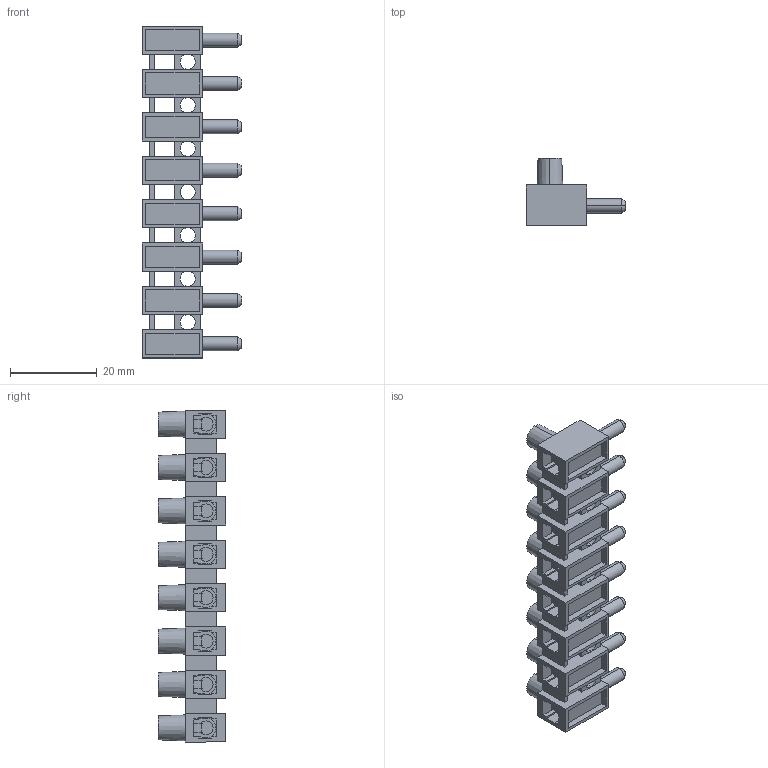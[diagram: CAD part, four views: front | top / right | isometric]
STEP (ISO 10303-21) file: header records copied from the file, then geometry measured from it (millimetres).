
FILE_DESCRIPTION (( 'STEP AP214' ), '1' );
FILE_NAME ('322-STFS-DS-08.STEP', '2008-04-15T01:49:44', ( ' ' ), ( '' ), 'SwSTEP 2.0', 'SolidWorks 2007', '' );
FILE_SCHEMA (( 'AUTOMOTIVE_DESIGN' ));
Length unit declared in the file: millimetre
Products named in the file (1): 322-STFS-DS-08
Bounding box: 23 x 15.5 x 76.5 mm (x, y, z)
Volume: 7413.6 mm3; surface area: 9175.3 mm2
Topology: 1 solids, 1 shells, 952 faces, 2720 edges, 1788 vertices
Faces by surface type: plane 610, cylinder 230, cone 72, bspline 40
Entity records: 33583 total; most frequent: CARTESIAN_POINT 8389, ORIENTED_EDGE 5440, DIRECTION 5062, EDGE_CURVE 2720, VECTOR 1868, LINE 1868, VERTEX_POINT 1788, AXIS2_PLACEMENT_3D 1597
